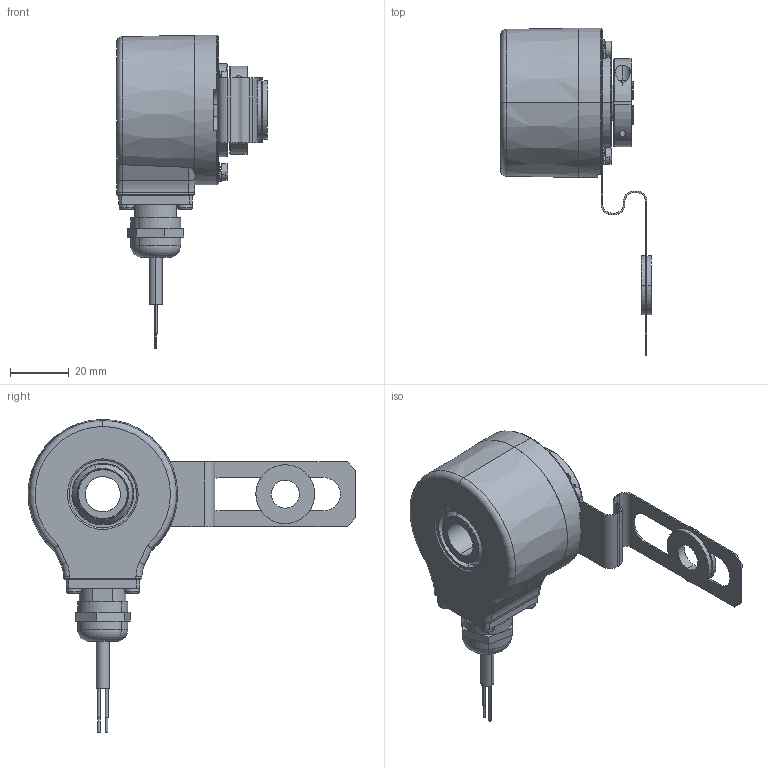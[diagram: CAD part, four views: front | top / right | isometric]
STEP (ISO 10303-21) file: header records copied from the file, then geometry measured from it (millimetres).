
FILE_DESCRIPTION (( 'STEP AP214' ), '1' );
FILE_NAME ('5020.45X1.XXXX.STEP', '2007-06-18T09:21:35', ( 'DanneckerS' ), ( ' ' ), 'SwSTEP 2.0', 'SolidWorks 2007', '' );
FILE_SCHEMA (( 'AUTOMOTIVE_DESIGN' ));
Length unit declared in the file: millimetre
Products named in the file (1): 5020.45X1.XXXX
Bounding box: 51.2 x 111.4 x 106.4 mm (x, y, z)
Surface area: 25200.5 mm2 (no closed solid volume)
Topology: 0 solids, 27 shells, 385 faces, 1067 edges, 706 vertices
Faces by surface type: plane 184, cylinder 129, torus 30, cone 24, bspline 10, sphere 8
Entity records: 17294 total; most frequent: CARTESIAN_POINT 3036, DIRECTION 2210, ORIENTED_EDGE 1912, EDGE_CURVE 1067, AXIS2_PLACEMENT_3D 849, VERTEX_POINT 706, VECTOR 512, LINE 512
